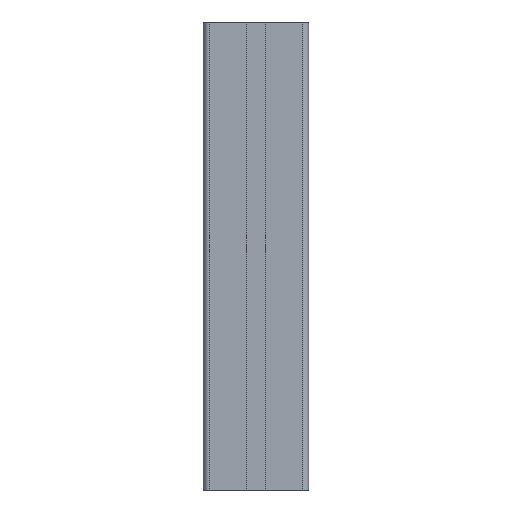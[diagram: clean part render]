
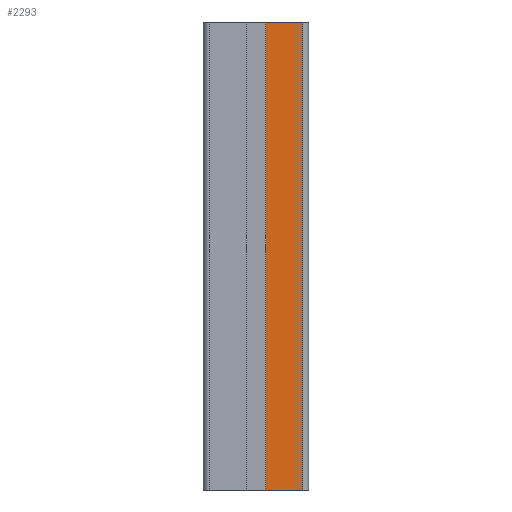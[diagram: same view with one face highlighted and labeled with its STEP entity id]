
A CAD part, left-side view. The second image highlights one B-rep face of the part: STEP entity #2293.
In plain terms, the highlighted planar face has unit normal (-1, 0, 0).
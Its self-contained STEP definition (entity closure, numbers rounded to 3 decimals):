
#82 = VECTOR ( 'NONE', #2430, 1000. ) ;
#100 = LINE ( 'NONE', #2491, #82 ) ;
#166 = CARTESIAN_POINT ( 'NONE',  ( -22.286, -20.346, 200. ) ) ;
#173 = VECTOR ( 'NONE', #1835, 1000. ) ;
#178 = LINE ( 'NONE', #1789, #173 ) ;
#213 = VECTOR ( 'NONE', #1630, 1000. ) ;
#225 = LINE ( 'NONE', #1622, #213 ) ;
#256 = VECTOR ( 'NONE', #372, 1000. ) ;
#259 = LINE ( 'NONE', #1353, #256 ) ;
#372 = DIRECTION ( 'NONE',  ( 0., -1., 0. ) ) ;
#448 = CARTESIAN_POINT ( 'NONE',  ( -22.286, -4.446, 200. ) ) ;
#499 = CARTESIAN_POINT ( 'NONE',  ( -22.286, -4.446, 0. ) ) ;
#545 = AXIS2_PLACEMENT_3D ( 'NONE', #1663, #1674, #1827 ) ;
#682 = PLANE ( 'NONE',  #545 ) ;
#882 = ORIENTED_EDGE ( 'NONE', *, *, #1799, .F. ) ;
#977 = EDGE_LOOP ( 'NONE', ( #1950, #882, #1392, #2091 ) ) ;
#1237 = VERTEX_POINT ( 'NONE', #166 ) ;
#1353 = CARTESIAN_POINT ( 'NONE',  ( -22.286, 0., 0. ) ) ;
#1378 = CARTESIAN_POINT ( 'NONE',  ( -22.286, -20.346, 0. ) ) ;
#1392 = ORIENTED_EDGE ( 'NONE', *, *, #2021, .F. ) ;
#1622 = CARTESIAN_POINT ( 'NONE',  ( -22.286, -4.446, 200. ) ) ;
#1623 = VERTEX_POINT ( 'NONE', #448 ) ;
#1627 = EDGE_CURVE ( 'NONE', #2132, #2206, #259, .T. ) ;
#1630 = DIRECTION ( 'NONE',  ( 0., 0., -1. ) ) ;
#1663 = CARTESIAN_POINT ( 'NONE',  ( -22.286, 0., 200. ) ) ;
#1674 = DIRECTION ( 'NONE',  ( 1., 0., 0. ) ) ;
#1713 = EDGE_CURVE ( 'NONE', #1623, #2132, #225, .T. ) ;
#1789 = CARTESIAN_POINT ( 'NONE',  ( -22.286, -20.346, 200. ) ) ;
#1799 = EDGE_CURVE ( 'NONE', #1237, #2206, #178, .T. ) ;
#1827 = DIRECTION ( 'NONE',  ( 0., 1., 0. ) ) ;
#1835 = DIRECTION ( 'NONE',  ( 0., 0., -1. ) ) ;
#1950 = ORIENTED_EDGE ( 'NONE', *, *, #1627, .T. ) ;
#2021 = EDGE_CURVE ( 'NONE', #1623, #1237, #100, .T. ) ;
#2091 = ORIENTED_EDGE ( 'NONE', *, *, #1713, .T. ) ;
#2132 = VERTEX_POINT ( 'NONE', #499 ) ;
#2206 = VERTEX_POINT ( 'NONE', #1378 ) ;
#2293 = ADVANCED_FACE ( 'NONE', ( #2691 ), #682, .F. ) ;
#2430 = DIRECTION ( 'NONE',  ( 0., -1., 0. ) ) ;
#2491 = CARTESIAN_POINT ( 'NONE',  ( -22.286, 0., 200. ) ) ;
#2691 = FACE_OUTER_BOUND ( 'NONE', #977, .T. ) ;
